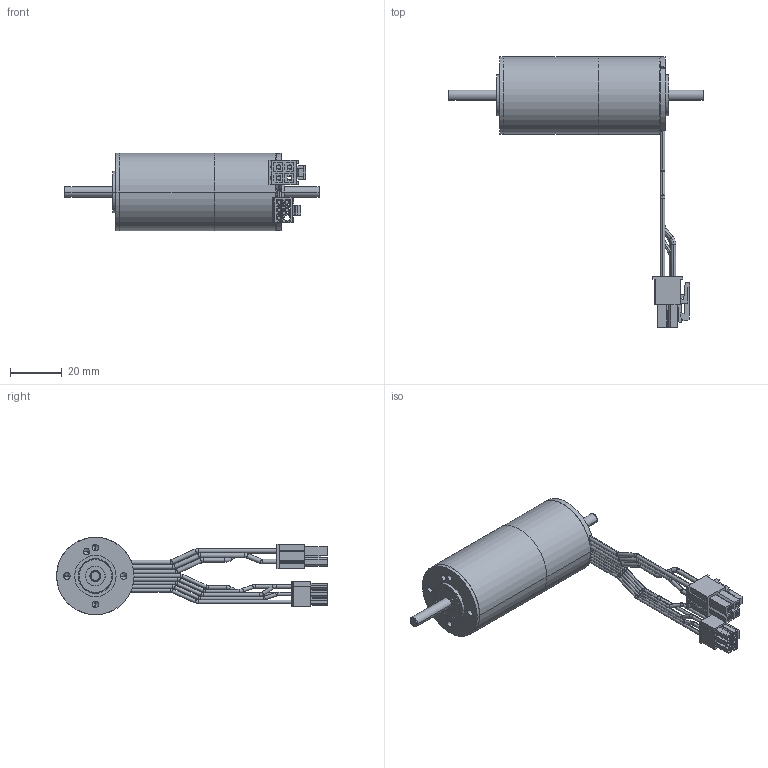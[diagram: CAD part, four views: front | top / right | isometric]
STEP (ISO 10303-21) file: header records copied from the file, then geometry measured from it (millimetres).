
FILE_DESCRIPTION((''),'2;1');
FILE_NAME('539477','2017-05-29T',('mmagpetk'),(''),'CREO PARAMETRIC BY PTC INC, 2016050','CREO PARAMETRIC BY PTC INC, 2016050','');
FILE_SCHEMA(('CONFIG_CONTROL_DESIGN'));
Length unit declared in the file: millimetre
Products named in the file (1): 539477
Bounding box: 99 x 104.86 x 30 mm (x, y, z)
Volume: 48756 mm3; surface area: 14257.4 mm2
Topology: 2 solids, 2 shells, 614 faces, 1634 edges, 1020 vertices
Faces by surface type: plane 358, cylinder 141, torus 80, cone 35
Entity records: 27095 total; most frequent: CARTESIAN_POINT 3851, ORIENTED_EDGE 3220, DIRECTION 3169, PRESENTATION_STYLE_ASSIGNMENT 2031, STYLED_ITEM 1612, CURVE_STYLE 1610, EDGE_CURVE 1610, VECTOR 1143
